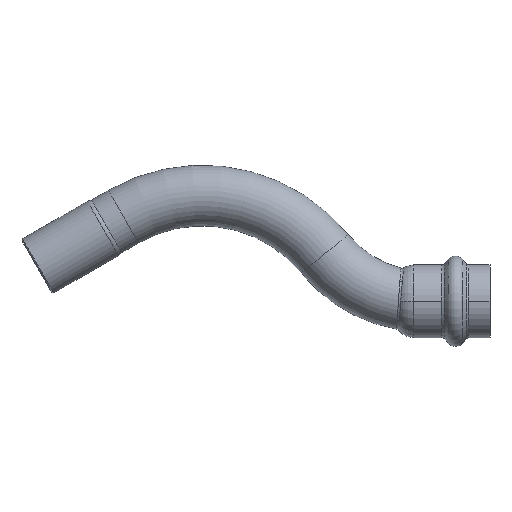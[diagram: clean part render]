
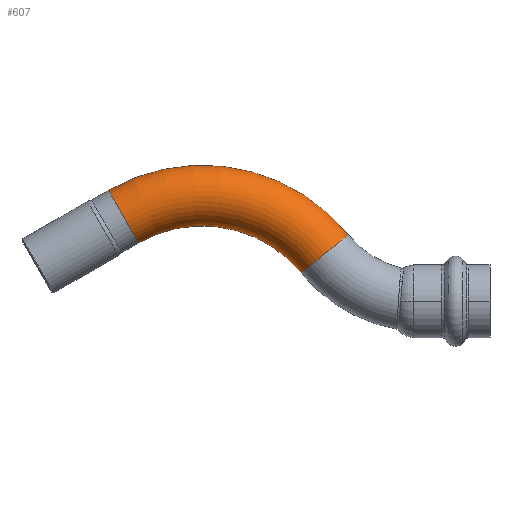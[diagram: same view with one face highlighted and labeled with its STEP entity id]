
A CAD part, top view. The second image highlights one B-rep face of the part: STEP entity #607.
In plain terms, the highlighted toroidal (fillet/blend) face has major radius 45.5 mm and minor radius 8.75 mm.
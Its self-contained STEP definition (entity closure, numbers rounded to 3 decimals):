
#58 = AXIS2_PLACEMENT_3D ( 'NONE', #1013, #779, #1295 ) ;
#61 = FACE_OUTER_BOUND ( 'NONE', #941, .T. ) ;
#71 = CARTESIAN_POINT ( 'NONE',  ( -110.106, 31.982, 0. ) ) ;
#91 = VERTEX_POINT ( 'NONE', #1394 ) ;
#253 = AXIS2_PLACEMENT_3D ( 'NONE', #542, #710, #1741 ) ;
#266 = EDGE_CURVE ( 'NONE', #966, #1581, #784, .T. ) ;
#407 = CARTESIAN_POINT ( 'NONE',  ( -105.731, 24.404, 0. ) ) ;
#512 = VERTEX_POINT ( 'NONE', #918 ) ;
#542 = CARTESIAN_POINT ( 'NONE',  ( -82.981, -15., 0. ) ) ;
#598 = DIRECTION ( 'NONE',  ( 0., 0., -1. ) ) ;
#607 = ADVANCED_FACE ( 'NONE', ( #61 ), #614, .T. ) ;
#614 = TOROIDAL_SURFACE ( 'NONE', #253, 45.5, 8.75 ) ;
#663 = AXIS2_PLACEMENT_3D ( 'NONE', #811, #2005, #983 ) ;
#710 = DIRECTION ( 'NONE',  ( 0., 0., 1. ) ) ;
#726 = CARTESIAN_POINT ( 'NONE',  ( -47.657, 13.679, 0. ) ) ;
#779 = DIRECTION ( 'NONE',  ( 0., 0., 1. ) ) ;
#784 = CIRCLE ( 'NONE', #2065, 8.75 ) ;
#811 = CARTESIAN_POINT ( 'NONE',  ( -82.981, -15., 0. ) ) ;
#918 = CARTESIAN_POINT ( 'NONE',  ( -54.45, 8.164, 0. ) ) ;
#931 = CIRCLE ( 'NONE', #663, 36.75 ) ;
#941 = EDGE_LOOP ( 'NONE', ( #1503, #1782, #1322, #1037 ) ) ;
#966 = VERTEX_POINT ( 'NONE', #71 ) ;
#983 = DIRECTION ( 'NONE',  ( 1., 0., 0. ) ) ;
#1013 = CARTESIAN_POINT ( 'NONE',  ( -82.981, -15., 0. ) ) ;
#1037 = ORIENTED_EDGE ( 'NONE', *, *, #2120, .F. ) ;
#1065 = DIRECTION ( 'NONE',  ( 0., 0., -1. ) ) ;
#1085 = CARTESIAN_POINT ( 'NONE',  ( -101.356, 16.826, 0. ) ) ;
#1140 = AXIS2_PLACEMENT_3D ( 'NONE', #726, #2061, #1065 ) ;
#1232 = CIRCLE ( 'NONE', #1140, 8.75 ) ;
#1295 = DIRECTION ( 'NONE',  ( 1., 0., 0. ) ) ;
#1322 = ORIENTED_EDGE ( 'NONE', *, *, #266, .T. ) ;
#1394 = CARTESIAN_POINT ( 'NONE',  ( -40.864, 19.194, 0. ) ) ;
#1480 = CIRCLE ( 'NONE', #58, 54.25 ) ;
#1503 = ORIENTED_EDGE ( 'NONE', *, *, #1906, .F. ) ;
#1581 = VERTEX_POINT ( 'NONE', #1085 ) ;
#1633 = DIRECTION ( 'NONE',  ( 0.866, 0.5, 0. ) ) ;
#1713 = EDGE_CURVE ( 'NONE', #91, #966, #1480, .T. ) ;
#1741 = DIRECTION ( 'NONE',  ( 1., 0., 0. ) ) ;
#1782 = ORIENTED_EDGE ( 'NONE', *, *, #1713, .T. ) ;
#1906 = EDGE_CURVE ( 'NONE', #91, #512, #1232, .T. ) ;
#2005 = DIRECTION ( 'NONE',  ( 0., 0., 1. ) ) ;
#2061 = DIRECTION ( 'NONE',  ( 0.63, -0.776, 0. ) ) ;
#2065 = AXIS2_PLACEMENT_3D ( 'NONE', #407, #1633, #598 ) ;
#2120 = EDGE_CURVE ( 'NONE', #512, #1581, #931, .T. ) ;
